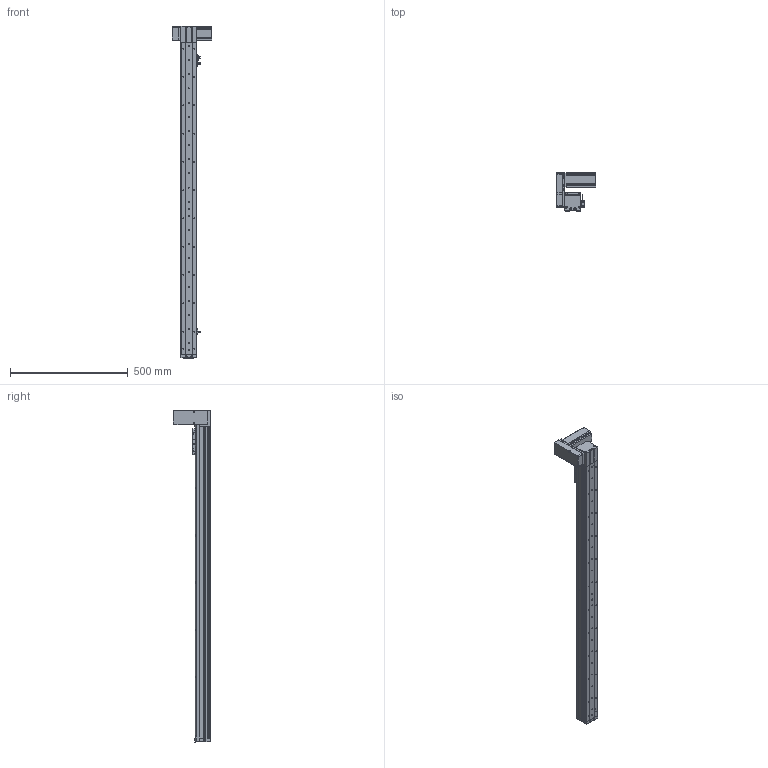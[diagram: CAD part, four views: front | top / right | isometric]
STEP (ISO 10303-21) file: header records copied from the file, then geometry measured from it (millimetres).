
FILE_DESCRIPTION (( 'STEP AP214' ), '1' );
FILE_NAME ('KSD68BS-S1150-MRU-CR.STEP', '2019-11-08T06:10:10', ( '微软用户' ), ( '微软中国' ), 'SwSTEP 2.0', 'SolidWorks 2014', '' );
FILE_SCHEMA (( 'AUTOMOTIVE_DESIGN' ));
Length unit declared in the file: millimetre
Products named in the file (14): 68宽单导轨全封闭同步带端板; 68单导轨全封闭同步带电机座右; 68单导轨全封闭同步带安装板; 悵誘欶奻狟殏; 68宽马达安装板连板上折同步带; 感应片68宽全封闭; U倰嫖萇EEㄜSX672; 台达ECMA－C20604AS伺服电机（400W); KSD68BS 1150行程底板全封闭; KSD68BS-S1150-MRU-CR; KSD68BS 1150行程盖板全封闭; 68遵裔啣揤啣1; 68宽单导轨全封闭丝杆传动安装板1防护罩; KSD68BS 1150行程侧板全封闭
Assembly tree (17 placements, depth 2):
  KSD68BS-S1150-MRU-CR
    KSD68BS 1150行程底板全封闭
    台达ECMA－C20604AS伺服电机（400W)
    U倰嫖萇EEㄜSX672  x3
    感应片68宽全封闭
    68宽马达安装板连板上折同步带
    悵誘欶奻狟殏
    68单导轨全封闭同步带安装板
    68单导轨全封闭同步带电机座右
    68宽单导轨全封闭同步带端板
    KSD68BS 1150行程侧板全封闭  x2
    68宽单导轨全封闭丝杆传动安装板1防护罩
    68遵裔啣揤啣1  x2
    KSD68BS 1150行程盖板全封闭
Bounding box: 167.2 x 159.5 x 1408.1 mm (x, y, z)
Volume: 2738763.9 mm3; surface area: 1067899.1 mm2
Topology: 18 solids, 18 shells, 1556 faces, 4449 edges, 2839 vertices
Faces by surface type: cylinder 749, plane 631, cone 176
Entity records: 49858 total; most frequent: CARTESIAN_POINT 8581, DIRECTION 7453, ORIENTED_EDGE 7126, EDGE_CURVE 3563, AXIS2_PLACEMENT_3D 2701, VERTEX_POINT 2337, LINE 2051, VECTOR 2051
